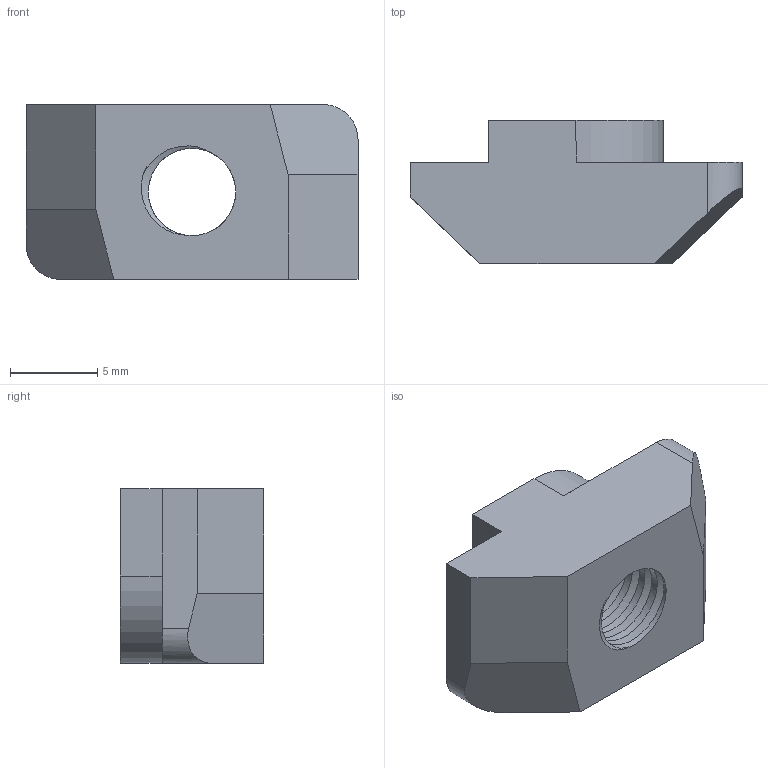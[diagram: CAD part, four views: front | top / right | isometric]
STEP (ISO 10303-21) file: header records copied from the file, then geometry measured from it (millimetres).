
FILE_DESCRIPTION (( 'STEP AP203' ), '1' );
FILE_NAME ('120-CE-TN-45.STEP', '2015-07-09T08:54:34', ( '' ), ( '' ), 'SwSTEP 2.0', 'SolidWorks 2013', '' );
FILE_SCHEMA (( 'CONFIG_CONTROL_DESIGN' ));
Length unit declared in the file: millimetre
Products named in the file (1): 120-CE-TN-45
Bounding box: 19 x 8.2 x 10 mm (x, y, z)
Volume: 965.9 mm3; surface area: 879.8 mm2
Topology: 1 solids, 1 shells, 38 faces, 108 edges, 72 vertices
Faces by surface type: cylinder 22, plane 14, bspline 2
Entity records: 3178 total; most frequent: CARTESIAN_POINT 2225, ORIENTED_EDGE 216, DIRECTION 149, EDGE_CURVE 108, VERTEX_POINT 72, VECTOR 57, LINE 57, AXIS2_PLACEMENT_3D 46
